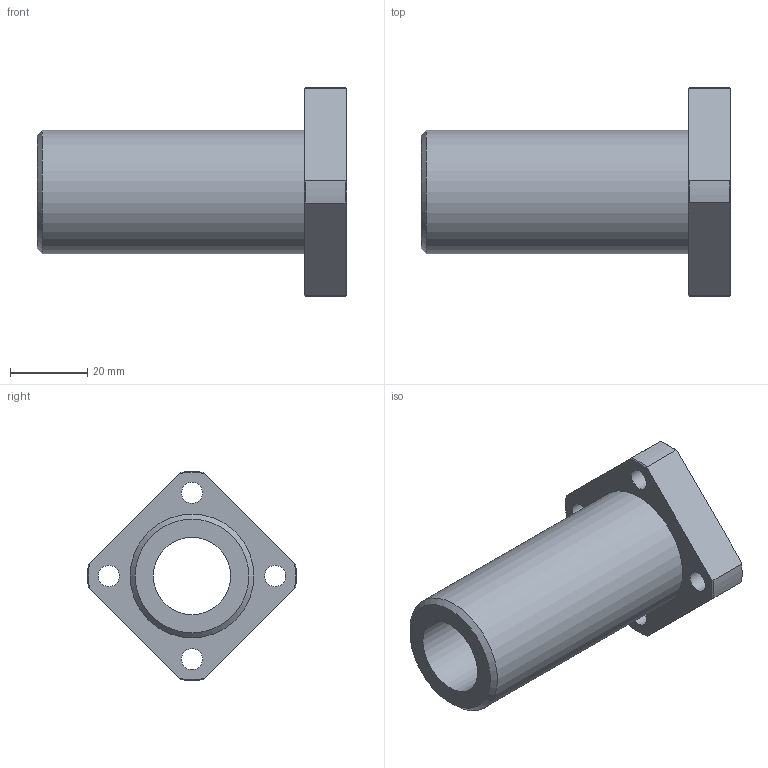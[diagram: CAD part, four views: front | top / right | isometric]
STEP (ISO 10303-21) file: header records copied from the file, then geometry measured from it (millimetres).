
FILE_DESCRIPTION(('STEP AP203'),'1');
FILE_NAME('//192.168.1.1/share/s-4 技術開発/s-4-4_CAD/s-4-4-3_見直し済み/PBC LINEAR修正済み/DFPJ/DFPJ_TOP/DFPJ/DFPJ20.step','2022-03-24T05:04:46',(' '),(' '),'Spatial InterOp 3D',' ',' ');
FILE_SCHEMA(('CONFIG_CONTROL_DESIGN'));
Length unit declared in the file: millimetre
Products named in the file (1): 1
Bounding box: 80 x 53.97 x 53.97 mm (x, y, z)
Volume: 47489.7 mm3; surface area: 17255.5 mm2
Topology: 1 solids, 1 shells, 34 faces, 86 edges, 59 vertices
Faces by surface type: cylinder 14, plane 11, cone 9
Full cylindrical faces by diameter (mm): 5.5 x4, 9 x4, 20 x1, 32 x1
Entity records: 1018 total; most frequent: CARTESIAN_POINT 205, DIRECTION 160, ORIENTED_EDGE 138, AXIS2_PLACEMENT_3D 72, EDGE_CURVE 69, EDGE_LOOP 60, VERTEX_POINT 53, FACE_OUTER_BOUND 44
